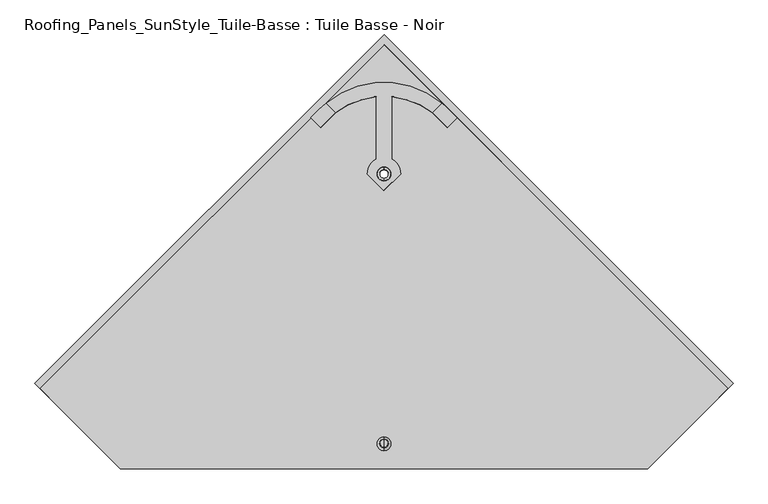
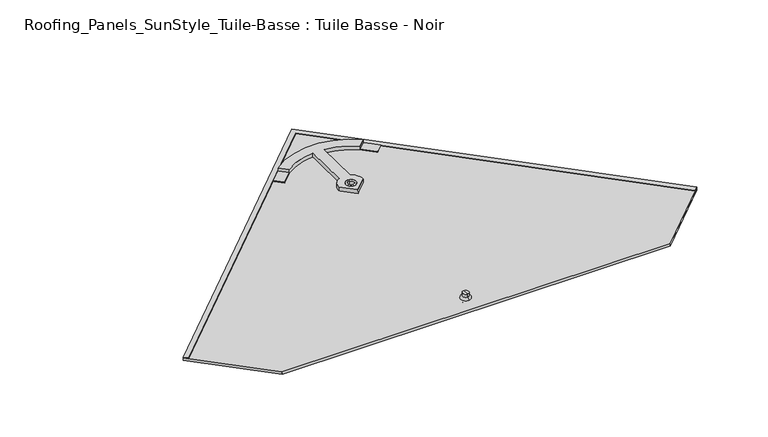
"""IFC4 building model written with IfcOpenShell, lengths in millimetres: proxy geometry, Roofing_Panels_SunStyle_Tuile-Basse : Tuile Basse - Noir."""

import ifcopenshell
import ifcopenshell.guid

model = None  # the IFC model being written
_history = None  # IfcOwnerHistory: only IFC2X3 demands one
_inside = {}  # id of a spatial element -> (the spatial element, [elements in it])
_under = {}  # id of a project, library or spatial element -> (it, [spatial elements below it])
_declared = {}  # id of a project -> (the project, [libraries it declares])
_typed = {}  # id of a type object -> (the type object, [elements of that type])
_made_of = {}  # id of a material, layer set ... -> (it, [elements and type objects made of it])


def new_model(schema):
    """Start an empty IFC model of exactly this schema.

    Asked for "IFC4X3", IfcOpenShell would pick the latest addendum, in which some entities
    have other attributes; the version numbers below select the first issue.
    IFC2X3 requires an IfcOwnerHistory on every rooted entity: one is made here for all.
    """
    global model, _history
    if schema == "IFC4X3":
        model = ifcopenshell.file(schema_version=(4, 3, 0, 0))
    else:
        model = ifcopenshell.file(schema=schema)
    _inside.clear()
    _under.clear()
    _declared.clear()
    _typed.clear()
    _made_of.clear()
    _history = None
    if model.schema == "IFC2X3":
        org = make("IfcOrganization", Name="unknown")
        user = make(
            "IfcPersonAndOrganization",
            ThePerson=make("IfcPerson", FamilyName="unknown"),
            TheOrganization=org,
        )
        app = make(
            "IfcApplication",
            ApplicationDeveloper=org,
            Version="unknown",
            ApplicationFullName="unknown",
            ApplicationIdentifier="unknown",
        )
        _history = make(
            "IfcOwnerHistory",
            OwningUser=user,
            OwningApplication=app,
            ChangeAction="ADDED",
            CreationDate=0,
        )
    return model


def make(cls, **values):
    """One entity of the class cls with the attributes given. An attribute that is None is left unset."""
    return model.create_entity(
        cls, **{name: value for name, value in values.items() if value is not None}
    )


def rooted(cls, **values):
    """An entity with a GlobalId (a new one), such as an element, a storey or a relation."""
    return make(cls, GlobalId=ifcopenshell.guid.new(), OwnerHistory=_history, **values)


def si_unit(unit_type, name, prefix=None):
    """IfcSIUnit, for example si_unit("LENGTHUNIT", "METRE", prefix="MILLI")."""
    return make("IfcSIUnit", UnitType=unit_type, Prefix=prefix, Name=name)


def assignment(units):
    """IfcUnitAssignment: the units of a project."""
    return None if units is None else make("IfcUnitAssignment", Units=units)


def point(xyz):
    """IfcCartesianPoint."""
    return None if xyz is None else make("IfcCartesianPoint", Coordinates=xyz)


def direction(xyz):
    """IfcDirection."""
    return None if xyz is None else make("IfcDirection", DirectionRatios=xyz)


def frame(location, z_axis=None, x_axis=None):
    """IfcAxis2Placement3D, a coordinate frame: its origin and axes. An axis left out is left unset."""
    return make(
        "IfcAxis2Placement3D",
        Location=point(location),
        Axis=direction(z_axis),
        RefDirection=direction(x_axis),
    )


def frame_2d(location, x_axis=None):
    """IfcAxis2Placement2D, a coordinate frame in the plane: its origin and x axis."""
    return make(
        "IfcAxis2Placement2D", Location=point(location), RefDirection=direction(x_axis)
    )


def origin():
    """The frame at (0, 0, 0) with its axes left unset."""
    return frame((0.0, 0.0, 0.0))


def place(relative_to, where):
    """IfcLocalPlacement: puts the frame where relative to a parent placement (None: the world)."""
    return make(
        "IfcLocalPlacement", PlacementRelTo=relative_to, RelativePlacement=where
    )


def context(
    kind, dimensions, precision=None, world=None, true_north=None, identifier=None
):
    """IfcGeometricRepresentationContext, for example the 3D "Model" context."""
    return make(
        "IfcGeometricRepresentationContext",
        ContextIdentifier=identifier,
        ContextType=kind,
        CoordinateSpaceDimension=dimensions,
        Precision=precision,
        WorldCoordinateSystem=world,
        TrueNorth=true_north,
    )


def project(units=None, contexts=None):
    """IfcProject with its units and contexts."""
    return rooted(
        "IfcProject",
        Name="project",
        RepresentationContexts=contexts,
        UnitsInContext=assignment(units),
    )


def spatial(cls, under=None, at=None, **own):
    """A site, building, storey or space (cls), placed at a placement, below another one or the project."""
    s = rooted(cls, ObjectPlacement=at, **own)
    if under is not None:
        _under.setdefault(under.id(), (under, []))[1].append(s)
    return s


def polyline(points):
    """IfcPolyline through the points."""
    return make("IfcPolyline", Points=[point(p) for p in points])


def circle_curve(where, radius):
    """IfcCircle in the frame where."""
    return make("IfcCircle", Position=where, Radius=radius)


def ellipse_curve(where, semi_axis1, semi_axis2):
    """IfcEllipse in the frame where."""
    return make(
        "IfcEllipse", Position=where, SemiAxis1=semi_axis1, SemiAxis2=semi_axis2
    )


def trimmed(basis, trim1, trim2, sense, master):
    """IfcTrimmedCurve: the piece of a basis curve between two trims."""
    return make(
        "IfcTrimmedCurve",
        BasisCurve=basis,
        Trim1=trim1,
        Trim2=trim2,
        SenseAgreement=sense,
        MasterRepresentation=master,
    )


def segment(curve, same_sense, transition):
    """IfcCompositeCurveSegment."""
    return make(
        "IfcCompositeCurveSegment",
        Transition=transition,
        SameSense=same_sense,
        ParentCurve=curve,
    )


def composite_curve(segments, self_intersect=None):
    """IfcCompositeCurve: segments joined end to end."""
    return make("IfcCompositeCurve", Segments=segments, SelfIntersect=self_intersect)


def outline(outer, holes=None, kind="AREA"):
    """IfcArbitraryClosedProfileDef: a profile drawn as a closed curve; with holes, ...WithVoids."""
    if holes is None:
        return make("IfcArbitraryClosedProfileDef", ProfileType=kind, OuterCurve=outer)
    return make(
        "IfcArbitraryProfileDefWithVoids",
        ProfileType=kind,
        OuterCurve=outer,
        InnerCurves=holes,
    )


def extrude(swept, where, along, depth):
    """IfcExtrudedAreaSolid: the profile swept, set in the frame where, extruded along a direction by depth."""
    return make(
        "IfcExtrudedAreaSolid",
        SweptArea=swept,
        Position=where,
        ExtrudedDirection=direction(along),
        Depth=depth,
    )


def shape(context_of_items, identifier, shape_type, items):
    """IfcShapeRepresentation: the items that make up one representation, for example the "Body"."""
    return make(
        "IfcShapeRepresentation",
        ContextOfItems=context_of_items,
        RepresentationIdentifier=identifier,
        RepresentationType=shape_type,
        Items=items,
    )


def source(mapping_origin, context_of_items, identifier, shape_type, items):
    """IfcRepresentationMap: a shape defined once, which mapped items show again and again."""
    return make(
        "IfcRepresentationMap",
        MappingOrigin=mapping_origin,
        MappedRepresentation=shape(context_of_items, identifier, shape_type, items),
    )


def transform(
    local_origin,
    x_axis=None,
    y_axis=None,
    z_axis=None,
    scale=None,
    scale2=None,
    scale3=None,
    uniform=True,
):
    """IfcCartesianTransformationOperator3D, or its non-uniform kind. x_axis, y_axis, z_axis: its Axis1, 2, 3."""
    if uniform:
        return make(
            "IfcCartesianTransformationOperator3D",
            Axis1=direction(x_axis),
            Axis2=direction(y_axis),
            LocalOrigin=point(local_origin),
            Scale=scale,
            Axis3=direction(z_axis),
        )
    return make(
        "IfcCartesianTransformationOperator3DnonUniform",
        Axis1=direction(x_axis),
        Axis2=direction(y_axis),
        LocalOrigin=point(local_origin),
        Scale=scale,
        Axis3=direction(z_axis),
        Scale2=scale2,
        Scale3=scale3,
    )


def mapped(mapping_source, mapping_target):
    """IfcMappedItem: shows the shape of a source again, moved by a transform."""
    return make(
        "IfcMappedItem", MappingSource=mapping_source, MappingTarget=mapping_target
    )


def made_of(thing, what):
    """Note that an element or type object is made of a material, layer set ...; save() writes the relation."""
    if what is not None:
        _made_of.setdefault(what.id(), (what, []))[1].append(thing)
    return thing


def element(
    cls,
    number,
    at=None,
    inside=None,
    cuts=None,
    type_object=None,
    material=None,
    context=None,
    identifier="Body",
    shape_type=None,
    held_by="IfcProductDefinitionShape",
    body=None,
    shapes=None,
    **own,
):
    """One element of the class cls, such as IfcWall. Its Tag is "e" and its number.

    at: its placement. inside: the storey or other place that contains it. cuts: it is an
    opening in that element (IfcRelVoidsElement). A single representation is given by context,
    identifier, shape_type and body (its items); several are given by shapes. held_by: the class
    of the entity that holds the representations. save() writes the other relations.
    """
    e = rooted(cls, Tag="e%d" % number, ObjectPlacement=at, **own)
    if body is not None:
        shapes = [shape(context, identifier, shape_type, body)]
    if shapes is not None:
        e.Representation = make(held_by, Representations=shapes)
    if inside is not None:
        _inside.setdefault(inside.id(), (inside, []))[1].append(e)
    if cuts is not None:
        rooted(
            "IfcRelVoidsElement", RelatingBuildingElement=cuts, RelatedOpeningElement=e
        )
    if type_object is not None:
        _typed.setdefault(type_object.id(), (type_object, []))[1].append(e)
    return made_of(e, material)


def aggregate(whole, parts):
    """IfcRelAggregates: a whole, such as a stair, and the parts it consists of."""
    return rooted("IfcRelAggregates", RelatingObject=whole, RelatedObjects=parts)


def save(model, path):
    """Write the relations noted so far, then the file.

    IfcRelAggregates (storeys below a building ...), IfcRelContainedInSpatialStructure (elements
    in a storey), IfcRelDefinesByType, IfcRelAssociatesMaterial and IfcRelDeclares: one each for
    every whole, place, type object, material and project.
    """
    for whole, parts in _under.values():
        aggregate(whole, parts)
    for where, things in _inside.values():
        rooted(
            "IfcRelContainedInSpatialStructure",
            RelatedElements=things,
            RelatingStructure=where,
        )
    for kind, things in _typed.values():
        rooted("IfcRelDefinesByType", RelatedObjects=things, RelatingType=kind)
    for what, things in _made_of.values():
        rooted("IfcRelAssociatesMaterial", RelatedObjects=things, RelatingMaterial=what)
    for by, libraries in _declared.values():
        rooted("IfcRelDeclares", RelatingContext=by, RelatedDefinitions=libraries)
    model.write(path)


def plane_surface(at):
    """IfcPlane: the flat surface through the origin of the frame at, square to its z axis."""
    return make("IfcPlane", Position=at)


def cylinder_surface(at, radius):
    """IfcCylindricalSurface: all points at the distance radius from the z axis of the frame at."""
    return make("IfcCylindricalSurface", Position=at, Radius=radius)


def revolved_surface(curve, axis_point, axis_direction):
    """IfcSurfaceOfRevolution: the curve turned about the line through axis_point along axis_direction."""
    return make(
        "IfcSurfaceOfRevolution",
        SweptCurve=make("IfcArbitraryOpenProfileDef", ProfileType="CURVE", Curve=curve),
        AxisPosition=make("IfcAxis1Placement", Location=point(axis_point), Axis=direction(axis_direction)),
    )


def advanced_brep(points, edges, surfaces, faces):
    """IfcAdvancedBrep: a solid bounded by faces that lie on surfaces and meet in shared edges.

    An edge is (start, end): straight between two places in points (the first is 0);
    or (start, end, curve); or (start, end, curve, False) where it runs against its curve.
    A face is (place in surfaces, loops), or (place, loops, False) where it looks against
    its surface's normal. A loop lists edges by number (the first is 1), with a minus sign
    where the edge is run from its end to its start. The first loop is the outer one.
    """
    corners = [point(p) for p in points]
    vertices = [make("IfcVertexPoint", VertexGeometry=c) for c in corners]
    made = []
    for start, end, *more in edges:
        made.append(
            make(
                "IfcEdgeCurve",
                EdgeStart=vertices[start],
                EdgeEnd=vertices[end],
                EdgeGeometry=more[0] if more else make("IfcPolyline", Points=[corners[start], corners[end]]),
                SameSense=more[1] if len(more) > 1 else True,
            )
        )
    hull = []
    for where, loops, *sense in faces:
        bounds = []
        for j, loop in enumerate(loops):
            ring = [make("IfcOrientedEdge", EdgeElement=made[abs(k) - 1], Orientation=k > 0) for k in loop]
            bounds.append(
                make(
                    "IfcFaceOuterBound" if j == 0 else "IfcFaceBound",
                    Bound=make("IfcEdgeLoop", EdgeList=ring),
                    Orientation=True,
                )
            )
        hull.append(make("IfcAdvancedFace", Bounds=bounds, FaceSurface=surfaces[where], SameSense=sense[0] if sense else True))
    return make("IfcAdvancedBrep", Outer=make("IfcClosedShell", CfsFaces=hull))


def roofing_panels_sunstyle_tuile_basse_tuile_basse_noir_b4a41e6e(model_context):
    return source(origin(), model_context, "Body", "SolidModel", [
        advanced_brep(
        [(0.0, -113.1716253, 18.1989674), (0.0, -99.8385448, 17.9756715), (0.0, -100.2068538, -4.0161979), (0.0, -113.5399344, -3.792902), (0.0, -118.6708541, 18.2910658), (0.0, -94.3393159, 17.8835731), (0.0, -113.7218578, 23.2048726), (0.0, -99.1209949, 22.9603445), (0.0, -106.2873979, 31.0854967), (0.0, -98.9869664, 30.9632326), (0.0, -113.5878294, 31.2077608), (0.0, -106.8733941, -3.9045499)],
        [
            (0, 1, circle_curve(frame((0.0, -106.505085, 18.0873194), z_axis=(0.0, -0.016745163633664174, -0.9998597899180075), x_axis=(0.0, 0.9998597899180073, -0.01674516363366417)), 6.6674751)),
            (1, 2),
            (2, 3, circle_curve(frame((0.0, -106.8733941, -3.9045499), z_axis=(0.0, 0.016745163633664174, 0.9998597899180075), x_axis=(0.0, 0.9998597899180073, -0.01674516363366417)), 6.6674751)),
            (3, 0),
            (1, 0, circle_curve(frame((0.0, -106.505085, 18.0873194), z_axis=(0.0, -0.016745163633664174, -0.9998597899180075), x_axis=(0.0, 0.9998597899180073, -0.01674516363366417)), 6.6674751)),
            (3, 2, circle_curve(frame((0.0, -106.8733941, -3.9045499), z_axis=(0.0, 0.016745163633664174, 0.9998597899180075), x_axis=(0.0, 0.9998597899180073, -0.01674516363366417)), 6.6674751)),
            (4, 5, circle_curve(frame((0.0, -106.505085, 18.0873194), z_axis=(0.0, -0.016745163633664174, -0.9998597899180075), x_axis=(0.0, 0.9998597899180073, -0.01674516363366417)), 12.1674751)),
            (5, 1),
            (0, 4),
            (5, 4, circle_curve(frame((0.0, -106.505085, 18.0873194), z_axis=(0.0, -0.016745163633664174, -0.9998597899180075), x_axis=(0.0, 0.9998597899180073, -0.01674516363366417)), 12.1674751)),
            (6, 7, circle_curve(frame((0.0, -106.4214264, 23.0826085), z_axis=(0.0, -0.016745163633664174, -0.9998597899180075), x_axis=(0.0, 0.9998597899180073, -0.01674516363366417)), 7.3014552)),
            (7, 5, circle_curve(frame((0.0, -99.4251928, 17.8835731), z_axis=(-1.0, 0.0, 0.0), x_axis=(0.0, 1.0, 0.0)), 5.0858769)),
            (4, 6, circle_curve(frame((0.0, -113.5878294, 18.120762), z_axis=(-1.0, 0.0, 0.0), x_axis=(0.0, -0.9994391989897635, 0.03348563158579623)), 5.0858769)),
            (7, 6, circle_curve(frame((0.0, -106.4214264, 23.0826085), z_axis=(0.0, -0.016745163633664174, -0.9998597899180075), x_axis=(0.0, 0.9998597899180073, -0.01674516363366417)), 7.3014552)),
            (8, 9),
            (9, 10, circle_curve(frame((0.0, -106.2873979, 31.0854967), z_axis=(0.0, 0.016745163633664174, 0.9998597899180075), x_axis=(0.0, 0.9998597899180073, -0.01674516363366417)), 7.3014552)),
            (10, 8),
            (10, 9, circle_curve(frame((0.0, -106.2873979, 31.0854967), z_axis=(0.0, 0.016745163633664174, 0.9998597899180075), x_axis=(0.0, 0.9998597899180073, -0.01674516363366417)), 7.3014552)),
            (2, 11),
            (11, 3),
            (9, 7),
            (6, 10),
        ],
        [
            cylinder_surface(frame((0.0, -106.1530399, 39.1080636), z_axis=(0.0, 0.01674516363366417, 0.9998597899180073), x_axis=(0.0, 0.9998597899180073, -0.01674516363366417)), 6.6674751),
            plane_surface(frame((0.0, -106.505085, 18.0873194), z_axis=(0.0, -0.016745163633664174, -0.9998597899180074), x_axis=(0.0, 0.9998597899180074, -0.016745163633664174))),
            revolved_surface(trimmed(ellipse_curve(frame((0.0, -99.4251928, 17.8835731), z_axis=(1.0, 0.0, 0.0), x_axis=(0.0, 1.0, 0.0)), 5.0858769, 5.0858769), [point((0.0, -94.3393159, 17.8835731))], [point((0.0, -99.1209949, 22.9603445))], True, "CARTESIAN"), (0.0, -106.1530399, 39.1080636), (0.0, 0.01674516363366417, 0.9998597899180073)),
            plane_surface(frame((0.0, -106.2873979, 31.0854967), z_axis=(0.0, 0.016745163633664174, 0.9998597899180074), x_axis=(0.0, 0.9998597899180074, -0.016745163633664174))),
            plane_surface(frame((0.0, -106.8733941, -3.9045499), z_axis=(0.0, -0.016745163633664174, -0.9998597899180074), x_axis=(0.0, 0.9998597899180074, -0.016745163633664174))),
            cylinder_surface(frame((0.0, -106.1530399, 39.1080636), z_axis=(0.0, 0.01674516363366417, 0.9998597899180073), x_axis=(0.0, 0.9998597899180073, -0.01674516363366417)), 7.3014552),
        ],
        [
            (0, [[1, 2, 3, 4]]),
            (0, [[5, -4, 6, -2]]),
            (1, [[7, 8, -1, 9]]),
            (1, [[10, -9, -5, -8]]),
            (2, [[11, 12, -7, 13]]),
            (2, [[14, -13, -10, -12]]),
            (3, [[15, 16, 17]]),
            (3, [[-17, 18, -15]]),
            (4, [[-3, 19, 20]]),
            (4, [[-6, -20, -19]]),
            (5, [[-16, 21, -11, 22]]),
            (5, [[-18, -22, -14, -21]]),
        ],
    ),
        advanced_brep(
        [(0.0, 361.8961325, 20.2441668), (0.0, 377.2289335, 19.9873805), (0.0, 381.7283021, 19.9120273), (0.0, 357.3967639, 20.31952), (0.0, 361.6282103, 4.2464102), (0.0, 376.9610105, 3.9896239), (0.0, 357.1288413, 4.3217634), (0.0, 381.4603795, 3.9142707)],
        [
            (0, 1, circle_curve(frame((0.0, 369.562533, 20.1157737), z_axis=(0.0, -0.016745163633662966, -0.9998597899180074), x_axis=(0.0, 0.9998597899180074, -0.016745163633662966)), 7.6674755)),
            (1, 2),
            (2, 3, circle_curve(frame((0.0, 369.562533, 20.1157737), z_axis=(0.0, 0.016745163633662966, 0.9998597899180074), x_axis=(0.0, 0.9998597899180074, -0.016745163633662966)), 12.1674751)),
            (3, 0),
            (1, 0, circle_curve(frame((0.0, 369.562533, 20.1157737), z_axis=(0.0, -0.016745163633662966, -0.9998597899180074), x_axis=(0.0, 0.9998597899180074, -0.016745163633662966)), 7.6674755)),
            (3, 2, circle_curve(frame((0.0, 369.562533, 20.1157737), z_axis=(0.0, 0.016745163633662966, 0.9998597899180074), x_axis=(0.0, 0.9998597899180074, -0.016745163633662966)), 12.1674751)),
            (4, 5, circle_curve(frame((0.0, 369.2946104, 4.118017), z_axis=(0.0, -0.016745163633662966, -0.9998597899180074), x_axis=(0.0, 0.9998597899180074, -0.016745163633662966)), 7.6674751)),
            (5, 1),
            (0, 4),
            (5, 4, circle_curve(frame((0.0, 369.2946104, 4.118017), z_axis=(0.0, -0.016745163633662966, -0.9998597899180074), x_axis=(0.0, 0.9998597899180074, -0.016745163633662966)), 7.6674751)),
            (6, 7, circle_curve(frame((0.0, 369.2946104, 4.118017), z_axis=(0.0, -0.016745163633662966, -0.9998597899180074), x_axis=(0.0, 0.9998597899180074, -0.016745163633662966)), 12.1674751)),
            (7, 5),
            (4, 6),
            (7, 6, circle_curve(frame((0.0, 369.2946104, 4.118017), z_axis=(0.0, -0.016745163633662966, -0.9998597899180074), x_axis=(0.0, 0.9998597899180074, -0.016745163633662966)), 12.1674751)),
            (2, 7),
            (6, 3),
        ],
        [
            plane_surface(frame((0.0, 369.562533, 20.1157737), z_axis=(0.0, 0.016745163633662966, 0.9998597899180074), x_axis=(0.0, 0.9998597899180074, -0.016745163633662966))),
            revolved_surface(polyline([(0.0, 377.2289330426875, 19.987380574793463), (0.0, 376.96101042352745, 3.989623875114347)]), (0.0, 369.562533, 20.1157737), (0.0, 0.016745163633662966, 0.9998597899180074)),
            plane_surface(frame((0.0, 369.2946104, 4.118017), z_axis=(0.0, -0.016745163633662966, -0.9998597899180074), x_axis=(0.0, 0.9998597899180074, -0.016745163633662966))),
            cylinder_surface(frame((0.0, 369.562533, 20.1157737), z_axis=(0.0, 0.016745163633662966, 0.9998597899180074), x_axis=(0.0, 0.9998597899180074, -0.016745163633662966)), 12.1674751),
        ],
        [
            (0, [[1, 2, 3, 4]]),
            (0, [[5, -4, 6, -2]]),
            (1, [[7, 8, -1, 9]]),
            (1, [[10, -9, -5, -8]]),
            (2, [[11, 12, -7, 13]]),
            (2, [[14, -13, -10, -12]]),
            (3, [[-3, 15, -11, 16]]),
            (3, [[-6, -16, -14, -15]]),
        ],
    ),
        extrude(outline(polyline([(0.0, -11.9999999), (0.0, 0.0), (858.0626589, 0.0), (858.1829764, 858.0626505), (870.1829763, 858.0609679), (870.0609764, -12.0), (0.0, -11.9999999)])), frame((606.7847845, -8.5982257, 16.4476231), z_axis=(0.0, 0.016745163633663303, 0.9998597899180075), x_axis=(-0.7071563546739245, 0.7069580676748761, -0.011839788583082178)), (0.0, 0.0, 1.0), 1.5),
        extrude(outline(polyline([(995.0941908, 0.0), (995.2161906, -870.0609679), (783.0215063, -870.0609679), (125.0629683, -212.1946823), (125.0332144, 0.0), (995.0941908, 0.0)]), holes=[composite_curve([segment(trimmed(circle_curve(frame_2d((484.9840289, -510.1812384)), 8.0), [point((479.3267781, -504.5247807))], [point((490.6412798, -515.837696))], True, "CARTESIAN"), True, "CONTINUOUS"), segment(trimmed(circle_curve(frame_2d((484.9840289, -510.1812384)), 8.0), [point((490.6412798, -515.837696))], [point((479.3267781, -504.5247807))], True, "CARTESIAN"), True, "CONTINUOUS")], self_intersect=False), composite_curve([segment(trimmed(circle_curve(frame_2d((821.5432581, -173.5748135)), 12.0), [point((813.0573819, -165.0901271))], [point((830.0291344, -182.0595))], True, "CARTESIAN"), True, "CONTINUOUS"), segment(trimmed(circle_curve(frame_2d((821.5432581, -173.5748135)), 12.0), [point((830.0291344, -182.0595))], [point((813.0573819, -165.0901271))], True, "CARTESIAN"), True, "CONTINUOUS")], self_intersect=False)]), frame((-703.686858, -88.6072499, 11.7867338), z_axis=(0.0, 0.01674516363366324, 0.9998597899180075), x_axis=(0.707156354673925, 0.7069580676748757, -0.011839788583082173)), (0.0, 0.0, 1.0), 6.0),
        advanced_brep(
        [(-102.0275718, 494.9998575, 18.0150106), (-84.944396, 477.9190769, 18.3010712), (-13.3, 505.8109871, 17.8339511), (-13.3, 395.9341043, 19.6741155), (-29.3894281, 369.7299846, 20.1129693), (0.0, 340.3446773, 20.6051), (29.3894281, 369.7299846, 20.1129693), (13.3, 395.9341043, 19.6741155), (13.3, 505.8109871, 17.8339511), (84.944396, 477.9190769, 18.3010712), (102.0275718, 494.9998575, 18.0150106), (-12.0, 369.7299846, 20.1129693), (12.0, 369.7299846, 20.1129693), (-102.0275718, 494.8324058, 8.0164127), (102.0275718, 494.8324058, 8.0164127), (114.2509691, 483.797483, 8.2012202), (128.9467134, 469.1058594, 8.4472683), (111.2690438, 451.4306685, 8.7432838), (84.9431983, 477.7528228, 8.3024532), (13.3, 505.6435355, 7.8353532), (13.3, 395.7666527, 9.6755176), (29.3894281, 369.562533, 10.1143714), (0.0, 340.1772257, 10.6065021), (-29.3894281, 369.562533, 10.1143714), (-13.3, 395.7666527, 9.6755176), (-13.3, 505.6435355, 7.8353532), (-84.944396, 477.7516253, 8.3024733), (-111.2690438, 451.4306685, 8.7432838), (-128.9467134, 469.1058594, 8.4472683), (-114.2509691, 483.797483, 8.2012202), (-12.0, 369.562533, 10.1143714), (12.0, 369.562533, 10.1143714), (102.0275718, 494.8742688, 10.5160622), (-102.0275718, 494.8742688, 10.5160622), (128.9467134, 469.1477223, 10.9469178), (114.2509691, 483.8393459, 10.7008697), (84.944396, 477.7934882, 10.8021227), (111.2690438, 451.4725314, 11.2429333), (-128.9467134, 469.1477223, 10.9469178), (-111.2690438, 451.4725314, 11.2429333), (-84.9431983, 477.7946858, 10.8021027), (-114.2509691, 483.8393459, 10.7008697)],
        [
            (0, 1),
            (1, 2, circle_curve(frame((0.0, 365.7229584, 20.180077), z_axis=(0.0, -0.01674516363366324, -0.9998597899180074), x_axis=(1.0, 0.0, 0.0)), 140.737522)),
            (2, 3),
            (3, 4, circle_curve(frame((0.0, 369.7299846, 20.1129693), z_axis=(0.0, 0.01674516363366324, 0.9998597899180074), x_axis=(1.0, 0.0, 0.0)), 29.3894281)),
            (4, 5),
            (5, 6),
            (6, 7, circle_curve(frame((0.0, 369.7299846, 20.1129693), z_axis=(0.0, 0.01674516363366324, 0.9998597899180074), x_axis=(1.0, 0.0, 0.0)), 29.3894281)),
            (7, 8),
            (8, 9, circle_curve(frame((0.0, 365.7229584, 20.180077), z_axis=(0.0, -0.01674516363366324, -0.9998597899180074), x_axis=(1.0, 0.0, 0.0)), 140.737522)),
            (9, 10),
            (10, 0, circle_curve(frame((0.0, 369.7299846, 20.1129693), z_axis=(0.0, 0.01674516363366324, 0.9998597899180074), x_axis=(1.0, 0.0, 0.0)), 161.57527)),
            (11, 12, circle_curve(frame((0.0, 369.7299846, 20.1129693), z_axis=(0.0, -0.01674516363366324, -0.9998597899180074), x_axis=(1.0, 0.0, 0.0)), 12.0)),
            (12, 11, circle_curve(frame((0.0, 369.7299846, 20.1129693), z_axis=(0.0, -0.01674516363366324, -0.9998597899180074), x_axis=(1.0, 0.0, 0.0)), 12.0)),
            (13, 14, circle_curve(frame((0.0, 369.562533, 10.1143714), z_axis=(0.0, -0.01674516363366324, -0.9998597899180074), x_axis=(1.0, 0.0, 0.0)), 161.57527)),
            (14, 15, circle_curve(frame((0.0, 369.562533, 10.1143714), z_axis=(0.0, -0.01674516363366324, -0.9998597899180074), x_axis=(1.0, 0.0, 0.0)), 161.57527)),
            (15, 16),
            (16, 17),
            (17, 18),
            (18, 19, circle_curve(frame((0.0, 365.5555068, 10.1814791), z_axis=(0.0, 0.01674516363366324, 0.9998597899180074), x_axis=(1.0, 0.0, 0.0)), 140.737522)),
            (19, 20),
            (20, 21, circle_curve(frame((0.0, 369.562533, 10.1143714), z_axis=(0.0, -0.01674516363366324, -0.9998597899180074), x_axis=(1.0, 0.0, 0.0)), 29.3894281)),
            (21, 22),
            (22, 23),
            (23, 24, circle_curve(frame((0.0, 369.562533, 10.1143714), z_axis=(0.0, -0.01674516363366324, -0.9998597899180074), x_axis=(1.0, 0.0, 0.0)), 29.3894281)),
            (24, 25),
            (25, 26, circle_curve(frame((0.0, 365.5555068, 10.1814791), z_axis=(0.0, 0.01674516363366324, 0.9998597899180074), x_axis=(1.0, 0.0, 0.0)), 140.737522)),
            (26, 27),
            (27, 28),
            (28, 29),
            (29, 13, circle_curve(frame((0.0, 369.562533, 10.1143714), z_axis=(0.0, -0.01674516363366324, -0.9998597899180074), x_axis=(-1.0, 0.0, 0.0)), 161.57527)),
            (30, 31, circle_curve(frame((0.0, 369.562533, 10.1143714), z_axis=(0.0, 0.01674516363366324, 0.9998597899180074), x_axis=(1.0, 0.0, 0.0)), 12.0)),
            (31, 30, circle_curve(frame((0.0, 369.562533, 10.1143714), z_axis=(0.0, 0.01674516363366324, 0.9998597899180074), x_axis=(1.0, 0.0, 0.0)), 12.0)),
            (2, 25),
            (24, 3),
            (23, 4),
            (22, 5),
            (21, 6),
            (20, 7),
            (19, 8),
            (10, 32),
            (32, 14),
            (13, 33),
            (33, 0),
            (11, 30),
            (31, 12),
            (34, 35),
            (35, 32, circle_curve(frame((0.0, 369.6043959, 12.6140208), z_axis=(0.0, 0.01674516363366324, 0.9998597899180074), x_axis=(1.0, 0.0, 0.0)), 161.57527)),
            (32, 36),
            (36, 37),
            (37, 34),
            (38, 39),
            (39, 40),
            (40, 33),
            (33, 41, circle_curve(frame((0.0, 369.6043959, 12.6140208), z_axis=(0.0, 0.01674516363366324, 0.9998597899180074), x_axis=(-1.0, 0.0, 0.0)), 161.57527)),
            (41, 38),
            (34, 16),
            (15, 35),
            (37, 17),
            (36, 18),
            (38, 28),
            (27, 39),
            (26, 40),
            (29, 41),
            (40, 1),
            (9, 36),
        ],
        [
            plane_surface(frame((-102.0275718, 494.9998575, 18.0150106), z_axis=(0.0, 0.01674516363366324, 0.9998597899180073), x_axis=(0.7071067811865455, -0.7070076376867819, 0.011840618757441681))),
            plane_surface(frame((-102.0275718, 494.8324058, 8.0164127), z_axis=(0.0, -0.01674516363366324, -0.9998597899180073), x_axis=(-0.7071067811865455, 0.7070076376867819, -0.011840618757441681))),
            plane_surface(frame((-13.3, 505.8109871, 17.8339511), z_axis=(-1.0000000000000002, 0.0, 0.0), x_axis=(0.0, -0.01674516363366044, -0.9998597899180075))),
            cylinder_surface(frame((0.0, 369.562533, 10.1143714), z_axis=(0.0, 0.01674516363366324, 0.9998597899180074), x_axis=(1.0, 0.0, 0.0)), 29.3894281),
            plane_surface(frame((-29.3894281, 369.7299846, 20.1129693), z_axis=(-0.7071067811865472, -0.7070076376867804, 0.011840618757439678), x_axis=(0.0, -0.016745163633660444, -0.9998597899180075))),
            plane_surface(frame((0.0, 340.3446773, 20.6051), z_axis=(0.7071067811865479, -0.7070076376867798, 0.011840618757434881), x_axis=(0.0, -0.01674516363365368, -0.9998597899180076))),
            plane_surface(frame((13.3, 395.9341043, 19.6741155), z_axis=(1.0000000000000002, 0.0, 0.0), x_axis=(0.0, -0.016745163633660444, -0.9998597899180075))),
            cylinder_surface(frame((0.0, 369.562533, 10.1143714), z_axis=(0.0, 0.01674516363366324, 0.9998597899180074), x_axis=(1.0, 0.0, 0.0)), 161.57527),
            revolved_surface(polyline([(12.0, 369.562533, 10.1143714), (12.0, 369.72998463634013, 20.112969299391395)]), (0.0, 369.562533, 10.1143714), (0.0, -0.01674516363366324, -0.9998597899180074)),
            plane_surface(frame((128.9467134, 469.1477223, 10.9469178), z_axis=(0.0, 0.01674516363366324, 0.9998597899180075), x_axis=(-0.7071563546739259, 0.7069580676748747, -0.011839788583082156))),
            plane_surface(frame((128.9467134, 469.1477223, 10.9469178), z_axis=(0.7070572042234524, 0.7070572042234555, -0.011841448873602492), x_axis=(0.0, -0.016745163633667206, -0.9998597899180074))),
            plane_surface(frame((111.2690438, 451.4725314, 11.2429333), z_axis=(0.7071067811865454, -0.7070076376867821, 0.011840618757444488), x_axis=(0.0, -0.016745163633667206, -0.9998597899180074))),
            plane_surface(frame((84.9431983, 477.7946858, 10.8021027), z_axis=(-0.7071067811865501, -0.7070076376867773, 0.011840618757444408), x_axis=(0.0, -0.016745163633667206, -0.9998597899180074))),
            plane_surface(frame((-128.9467134, 469.1477223, 10.9469178), z_axis=(-0.7071067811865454, -0.7070076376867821, 0.011840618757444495), x_axis=(0.0, -0.016745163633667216, -0.9998597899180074))),
            plane_surface(frame((-111.2690438, 451.4725314, 11.2429333), z_axis=(0.7071067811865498, -0.7070076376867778, 0.011840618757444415), x_axis=(0.0, -0.016745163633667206, -0.9998597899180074))),
            cylinder_surface(frame((0.0, 369.562533, 10.1143714), z_axis=(0.0, 0.01674516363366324, 0.9998597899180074), x_axis=(-1.0, 0.0, 0.0)), 161.57527),
            plane_surface(frame((-114.2509691, 483.8393459, 10.7008697), z_axis=(-0.7070572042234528, 0.7070572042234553, -0.011841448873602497), x_axis=(0.0, -0.016745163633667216, -0.9998597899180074))),
            plane_surface(frame((-102.0275718, 494.9998575, 18.0150106), z_axis=(-0.7071067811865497, -0.7070076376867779, 0.01184061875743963), x_axis=(0.0, -0.01674516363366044, -0.9998597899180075))),
            plane_surface(frame((84.944396, 477.9190769, 18.3010712), z_axis=(0.7071067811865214, -0.7070076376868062, 0.011840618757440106), x_axis=(0.0, -0.01674516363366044, -0.9998597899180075))),
            revolved_surface(polyline([(140.737522, 365.5555068, 10.1814791), (140.737522, 365.72295843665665, 20.180077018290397)]), (0.0, 365.5555068, 10.1814791), (0.0, -0.01674516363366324, -0.9998597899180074)),
            revolved_surface(polyline([(140.737522, 365.55550679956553, 10.181479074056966), (140.737522, 365.72295843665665, 20.180077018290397)]), (0.0, 365.5555068, 10.1814791), (0.0, -0.01674516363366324, -0.9998597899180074)),
        ],
        [
            (0, [[1, 2, 3, 4, 5, 6, 7, 8, 9, 10, 11], [12, 13]]),
            (1, [[14, 15, 16, 17, 18, 19, 20, 21, 22, 23, 24, 25, 26, 27, 28, 29, 30], [31, 32]]),
            (2, [[-3, 33, -25, 34]]),
            (3, [[-4, -34, -24, 35]]),
            (4, [[-5, -35, -23, 36]]),
            (5, [[-6, -36, -22, 37]]),
            (3, [[-7, -37, -21, 38]]),
            (6, [[-8, -38, -20, 39]]),
            (7, [[-11, 40, 41, -14, 42, 43]]),
            (8, [[-12, 44, -32, 45]]),
            (8, [[-13, -45, -31, -44]]),
            (9, [[46, 47, 48, 49, 50]]),
            (9, [[51, 52, 53, 54, 55]]),
            (10, [[-46, 56, -16, 57]]),
            (11, [[-50, 58, -17, -56]]),
            (7, [[-47, -57, -15, -41]]),
            (12, [[-49, 59, -18, -58]]),
            (13, [[-51, 60, -28, 61]]),
            (14, [[-52, -61, -27, 62]]),
            (15, [[-54, -42, -30, 63]]),
            (16, [[-55, -63, -29, -60]]),
            (17, [[-1, -43, -53, 64]]),
            (18, [[-10, 65, -48, -40]]),
            (19, [[-2, -64, -62, -26, -33]]),
            (20, [[-9, -39, -19, -59, -65]]),
        ],
    ),
    ])


if __name__ == "__main__":
    model = new_model("IFC4")
    model_context = context("Model", 3, world=origin())
    ifc_project = project(units=[si_unit("LENGTHUNIT", "METRE", prefix="MILLI")], contexts=[model_context])
    site = spatial("IfcSite", under=ifc_project)
    building = spatial("IfcBuilding", under=site)
    placement = place(None, origin())
    roofing_panels_sunstyle_tuile_basse_tuile_basse_noir_shape = roofing_panels_sunstyle_tuile_basse_tuile_basse_noir_b4a41e6e(model_context)
    element("IfcBuildingElementProxy", 1, Name="Roofing_Panels_SunStyle_Tuile-Basse : Tuile Basse - Noir", ObjectType="Roofing_Panels_SunStyle_Tuile-Basse : Tuile Basse - Noir", at=placement, inside=building, context=model_context, shape_type="MappedRepresentation", body=[
        mapped(roofing_panels_sunstyle_tuile_basse_tuile_basse_noir_shape, transform((0.0, 0.0, 0.0), x_axis=(1.0, 0.0, 0.0), y_axis=(0.0, 1.0, 0.0), z_axis=(0.0, 0.0, 1.0))),
    ])
    save(model, "model.ifc")
